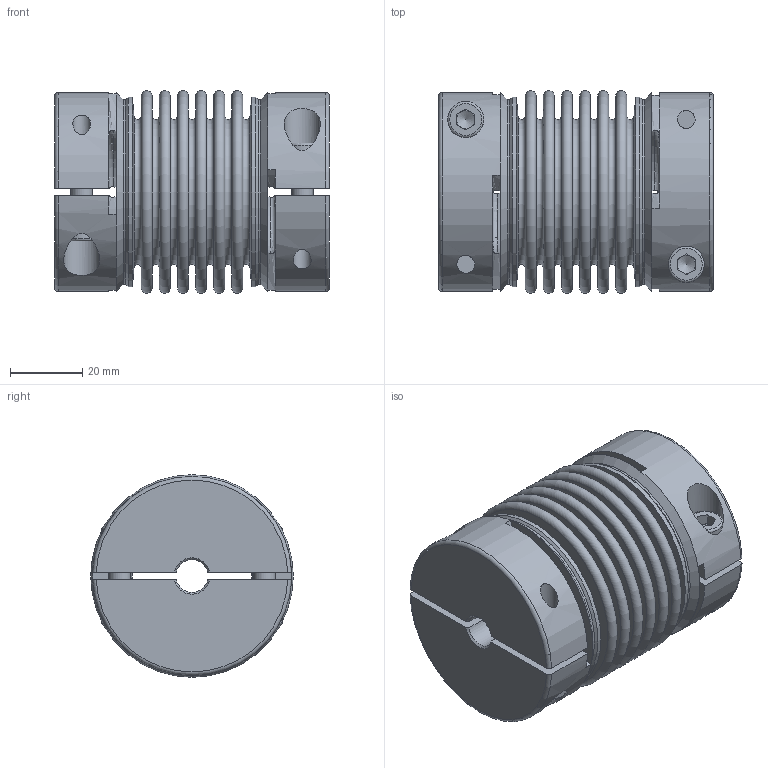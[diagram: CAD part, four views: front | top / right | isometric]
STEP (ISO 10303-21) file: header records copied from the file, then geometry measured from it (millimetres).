
FILE_DESCRIPTION(/* description */ ('Unknown','CAx-IF Rec.Pracs.---Representation and Presentation of Product Manufacturing Information (PMI)---4.0---2014-10-13','CAx-IF Rec.Pracs.---3D Tessellated Geometry---0.4---2014-09-14','2;1'),/* implementation_level */ '2;1');
FILE_NAME(/* name */ 'KG-HS 40 - 6W',/* time_stamp */ '2022-11-25T11:41:21+01:00',/* author */ ('Unknown'),/* organization */ ('Unknown'),/* preprocessor_version */ 'ST-DEVELOPER v18.102',/* originating_system */ 'Solid Edge',/* authorisation */ 'Unknown');
FILE_SCHEMA (('AP242_MANAGED_MODEL_BASED_3D_ENGINEERING_MIM_LF { 1 0 10303 442 1 1 4 }'));
Length unit declared in the file: millimetre
Products named in the file (1): 04824568
Bounding box: 75.96 x 56 x 56 mm (x, y, z)
Volume: 85794.5 mm3; surface area: 63360.9 mm2
Topology: 1 solids, 1 shells, 214 faces, 493 edges, 317 vertices
Faces by surface type: plane 110, torus 42, cylinder 42, cone 20
Full cylindrical faces by diameter (mm): 4.917 x8, 6 x4, 6.5 x4, 51.5 x2, 52.5 x2, 55 x2
Entity records: 7598 total; most frequent: CARTESIAN_POINT 1580, DIRECTION 964, ORIENTED_EDGE 796, AXIS2_PLACEMENT_3D 410, EDGE_CURVE 398, FACE_BOUND 332, EDGE_LOOP 328, VERTEX_POINT 294
